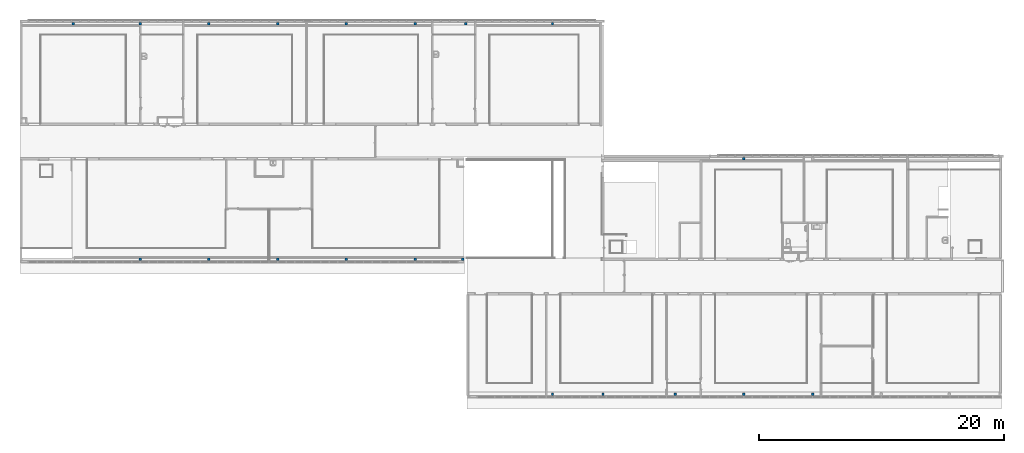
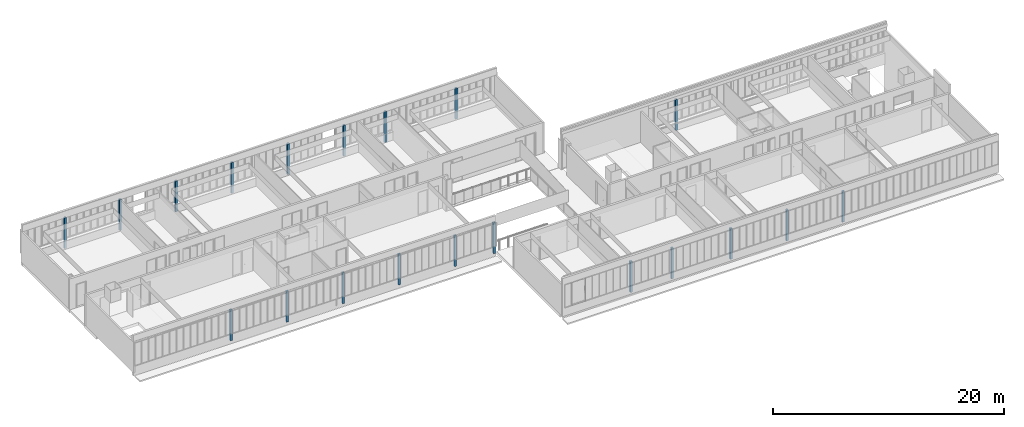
# One storey, part 1 of 87: 20 columns.
"""IFC2X3 building model written with IfcOpenShell, lengths in centimetres."""

from ifc_helpers import new_model, entity, si_unit, converted_unit, derived_unit, direction, frame, origin, origin_2d_with_axis, place, context, subcontext, project, spatial, rectangle, extrude, source, transform, mapped, material, type_object, type_shapes, element, save


model = new_model("IFC2X3")

# Units and contexts
model_context = context("Model", 3, precision=0.001, world=origin(), true_north=direction((6.12303176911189e-17, 1.0)))
body_context = subcontext(model_context, "Body", "Model", "MODEL_VIEW")
ifc_project = project(units=[si_unit("LENGTHUNIT", "METRE", prefix="CENTI"), si_unit("AREAUNIT", "SQUARE_METRE"), si_unit("VOLUMEUNIT", "CUBIC_METRE"), converted_unit("PLANEANGLEUNIT", "DEGREE", entity("IfcRatioMeasure", 0.0174532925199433), si_unit("PLANEANGLEUNIT", "RADIAN"), dimensions=[0, 0, 0, 0, 0, 0, 0]), si_unit("MASSUNIT", "GRAM", prefix="KILO"), derived_unit("MASSDENSITYUNIT", [(si_unit("MASSUNIT", "GRAM", prefix="KILO"), 1), (si_unit("LENGTHUNIT", "METRE"), -3)]), si_unit("TIMEUNIT", "SECOND"), si_unit("FREQUENCYUNIT", "HERTZ"), si_unit("THERMODYNAMICTEMPERATUREUNIT", "DEGREE_CELSIUS"), derived_unit("THERMALTRANSMITTANCEUNIT", [(si_unit("MASSUNIT", "GRAM", prefix="KILO"), 1), (si_unit("THERMODYNAMICTEMPERATUREUNIT", "KELVIN"), -1), (si_unit("TIMEUNIT", "SECOND"), -3)]), derived_unit("VOLUMETRICFLOWRATEUNIT", [(si_unit("LENGTHUNIT", "METRE"), 3), (si_unit("TIMEUNIT", "SECOND"), -1)]), si_unit("ELECTRICCURRENTUNIT", "AMPERE"), si_unit("ELECTRICVOLTAGEUNIT", "VOLT"), si_unit("POWERUNIT", "WATT"), si_unit("FORCEUNIT", "NEWTON", prefix="KILO"), si_unit("ILLUMINANCEUNIT", "LUX"), si_unit("LUMINOUSFLUXUNIT", "LUMEN"), si_unit("LUMINOUSINTENSITYUNIT", "CANDELA"), derived_unit("USERDEFINED", [(si_unit("MASSUNIT", "GRAM", prefix="KILO"), -1), (si_unit("LENGTHUNIT", "METRE"), -2), (si_unit("TIMEUNIT", "SECOND"), 3), (si_unit("LUMINOUSFLUXUNIT", "LUMEN"), 1)]), derived_unit("LINEARVELOCITYUNIT", [(si_unit("LENGTHUNIT", "METRE"), 1), (si_unit("TIMEUNIT", "SECOND"), -1)]), si_unit("PRESSUREUNIT", "PASCAL"), derived_unit("USERDEFINED", [(si_unit("LENGTHUNIT", "METRE"), -2), (si_unit("MASSUNIT", "GRAM", prefix="KILO"), 1), (si_unit("TIMEUNIT", "SECOND"), -2)])], contexts=[model_context])

# Site, building, storey
site_placement = place(None, frame((-2781.94577612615, 7442.24238424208, 0.0)))
site = spatial("IfcSite", under=ifc_project, at=site_placement, Name="Default", CompositionType="ELEMENT")
building_placement = place(site_placement, origin())
building = spatial("IfcBuilding", under=site, at=building_placement, CompositionType="ELEMENT")
storey_placement = place(building_placement, frame((0.0, 0.0, 774.0)))
storey = spatial("IfcBuildingStorey", under=building, at=storey_placement, Name="TR - N02 - ARCH", CompositionType="ELEMENT", Elevation=774.0)

# Columns
ifc_material = material(Name="Maçonnerie - Béton coulé sur place")
column_type = type_object("IfcColumnType", Name="200mm x 200mm", PredefinedType="COLUMN")
shared_shape = source(origin(), body_context, "Body", "SweptSolid", [
    extrude(rectangle(XDim=20.0, YDim=20.0, at=origin_2d_with_axis()), frame((0.0, 0.0, 774.0), z_axis=(0.0, 0.0, 1.0), x_axis=(0.0, -1.0, 0.0)), (0.0, 0.0, 1.0), 326.0),
])
type_shapes(column_type, [shared_shape])
for number, where in (
    (1, (-7429.50004166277, -1920.07903364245, -774.0)),
    (2, (-6869.50004166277, -1920.07903364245, -774.0)),
    (3, (-6309.50004166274, -1920.07903364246, -774.0)),
    (4, (-5749.49988166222, -1920.07903364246, -774.0)),
    (5, (-5189.50004166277, -1920.07903364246, -774.0)),
    (6, (-3069.99987760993, -3020.31349958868, -774.0)),
    (7, (-2509.99987760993, -3020.31349958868, -774.0)),
    (8, (-1949.99987760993, -3020.31349958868, -774.0)),
    (9, (-3657.99987968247, -3020.31349958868, -774.0)),
    (10, (-4069.50004159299, -3020.31349958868, -774.0)),
    (11, (-7976.49987760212, 0.0, -774.0)),
    (12, (-7429.50004166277, 0.0, -774.0)),
    (13, (-6869.50004166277, 0.0, -774.0)),
    (14, (-5749.49988166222, 0.0, -774.0)),
    (15, (-6309.50004166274, 0.0, -774.0)),
    (16, (-5189.50004166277, 0.0, -774.0)),
    (17, (-4777.99987760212, 0.0, -774.0)),
    (18, (-4069.50004159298, 0.0, -774.0)),
    (19, (-2509.99987955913, -1100.0, -774.0)),
    (20, (-4801.99987760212, -1920.07903364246, -774.0)),
):
    element("IfcColumn", number, at=place(storey_placement, frame(where)), inside=storey, type_object=column_type, material=ifc_material, Name="Poteau béton - Carré:200mm x 200mm", ObjectType="Poteau béton - Carré:200mm x 200mm", context=body_context, shape_type="MappedRepresentation", body=[
        mapped(shared_shape, transform((0.0, 0.0, 0.0), scale=1.0)),
    ])

save(model, "model.ifc")
